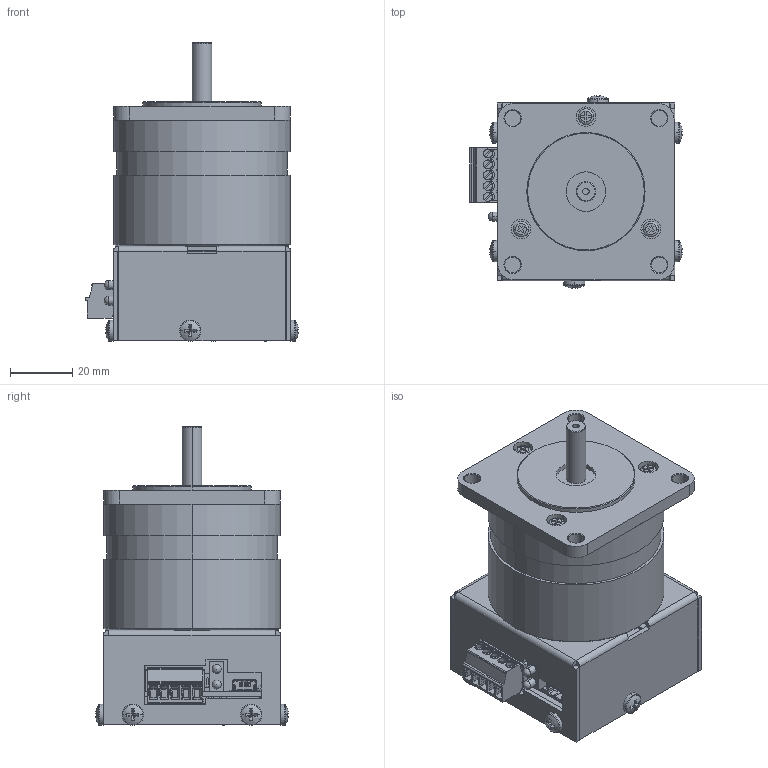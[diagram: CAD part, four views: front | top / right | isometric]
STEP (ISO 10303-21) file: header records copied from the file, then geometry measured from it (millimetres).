
FILE_DESCRIPTION (( 'STEP AP214' ), '1' );
FILE_NAME ('BLWS23MDCUSB1S-24V-4000.STEP', '2016-02-03T00:29:21', ( '' ), ( '' ), 'SwSTEP 2.0', 'SolidWorks 2016', '' );
FILE_SCHEMA (( 'AUTOMOTIVE_DESIGN' ));
Length unit declared in the file: inch
Products named in the file (21): CAP-0223; AA6550PCB; 55pan cross head_ai_CR-PHMS 0.138-32x0.25x0.25-S; Heat Sink, BLWS23MDCUSB Series; BLWR23MDAUSB Cover; 1840395; BLWS23-BLWR23 Series_BLWS23MDA1; 55pan cross head_ai_CR-PHMS 0.112-40x0.25x0.25-S; 55pan cross head_ai_CR-PHMS 0.112-40x0.3125x0.3125-S; BLWS23MDCUSB1S-24V-4000; TPE-661001001674-1.0X1.125; SUB-AA6550-1; CON-UX60SC-MB-5ST80; UX60SC-MB-5ST; LED-0008; 1844249; TRS-IRFU3607PBF with 90degree bent UP legs; LED-T-1-Series_LED-T-1-GRN; LED-LTM Series_LED-LTM150; RES-3W-JAPSTYLE.25; CON-B5B-EH-A
Assembly tree (32 placements, depth 4):
  BLWS23MDCUSB1S-24V-4000
    BLWS23-BLWR23 Series_BLWS23MDA1
    BLWR23MDAUSB Cover
    Heat Sink, BLWS23MDCUSB Series
    55pan cross head_ai_CR-PHMS 0.138-32x0.25x0.25-S  x6
    SUB-AA6550-1
      AA6550PCB
      CAP-0223
      CON-B5B-EH-A
      RES-3W-JAPSTYLE.25
      LED-LTM Series_LED-LTM150
      LED-T-1-Series_LED-T-1-GRN
      TRS-IRFU3607PBF with 90degree bent UP legs  x6
      1844249
      LED-0008
      CON-UX60SC-MB-5ST80
        UX60SC-MB-5ST
    TPE-661001001674-1.0X1.125
    55pan cross head_ai_CR-PHMS 0.112-40x0.3125x0.3125-S  x2
    55pan cross head_ai_CR-PHMS 0.112-40x0.25x0.25-S  x2
    1840395
Bounding box: 68.57 x 62.13 x 96.29 mm (x, y, z)
Volume: 159108.5 mm3; surface area: 59261.8 mm2
Topology: 30 solids, 30 shells, 3815 faces, 9993 edges, 6436 vertices
Faces by surface type: plane 2058, cylinder 852, cone 481, bspline 361, torus 40, sphere 23
Entity records: 145652 total; most frequent: CARTESIAN_POINT 36769, ORIENTED_EDGE 16070, DIRECTION 13876, EDGE_CURVE 8035, VECTOR 5390, LINE 5390, VERTEX_POINT 5212, AXIS2_PLACEMENT_3D 4243
